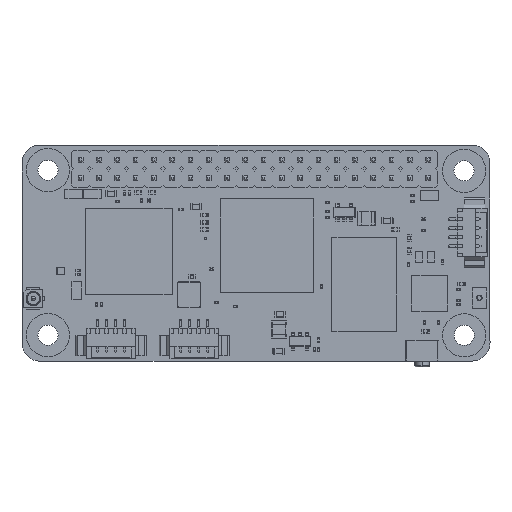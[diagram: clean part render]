
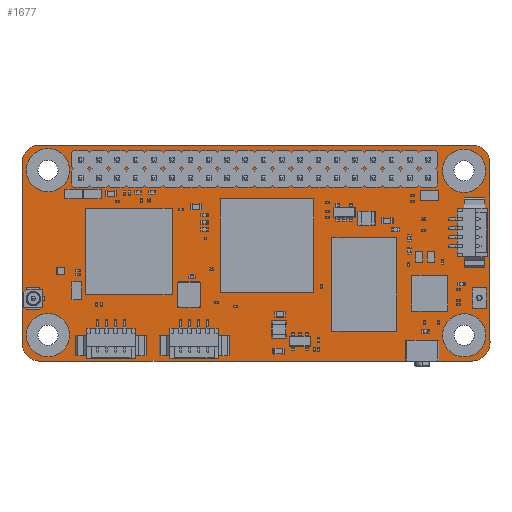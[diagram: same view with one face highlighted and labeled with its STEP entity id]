
A CAD part, top view. The second image highlights one B-rep face of the part: STEP entity #1677.
In plain terms, the highlighted planar face has unit normal (0, 0, 1).
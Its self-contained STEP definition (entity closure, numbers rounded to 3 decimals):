
#1271=DIRECTION('',(-1.,0.,0.));
#1272=VECTOR('',#1271,60.065);
#1273=CARTESIAN_POINT('',(28.5,13.969,1.6));
#1274=LINE('',#1273,#1272);
#1275=CARTESIAN_POINT('',(28.5,11.511,1.6));
#1276=DIRECTION('',(0.,0.,1.));
#1277=DIRECTION('',(1.,0.,0.));
#1278=AXIS2_PLACEMENT_3D('',#1275,#1276,#1277);
#1280=DIRECTION('',(-0.001,1.,0.));
#1281=VECTOR('',#1280,24.854);
#1282=CARTESIAN_POINT('',(30.971,-13.342,1.6));
#1283=LINE('',#1282,#1281);
#1284=DIRECTION('',(0.,1.,0.));
#1285=VECTOR('',#1284,0.153);
#1286=CARTESIAN_POINT('',(30.971,-13.496,1.6));
#1287=LINE('',#1286,#1285);
#1288=CARTESIAN_POINT('',(28.43,-13.496,1.6));
#1289=DIRECTION('',(0.,0.,1.));
#1290=DIRECTION('',(0.,-1.,0.));
#1291=AXIS2_PLACEMENT_3D('',#1288,#1289,#1290);
#1293=DIRECTION('',(1.,0.,0.));
#1294=VECTOR('',#1293,60.009);
#1295=CARTESIAN_POINT('',(-31.579,-16.036,1.6));
#1296=LINE('',#1295,#1294);
#1297=CARTESIAN_POINT('',(-31.579,-13.571,1.6));
#1298=DIRECTION('',(0.,0.,1.));
#1299=DIRECTION('',(-1.,0.,0.));
#1300=AXIS2_PLACEMENT_3D('',#1297,#1298,#1299);
#1302=DIRECTION('',(0.,-1.,0.));
#1303=VECTOR('',#1302,25.06);
#1304=CARTESIAN_POINT('',(-34.044,11.489,1.6));
#1305=LINE('',#1304,#1303);
#1306=CARTESIAN_POINT('',(-31.564,11.489,1.6));
#1307=DIRECTION('',(0.,0.,1.));
#1308=DIRECTION('',(0.,1.,0.));
#1309=AXIS2_PLACEMENT_3D('',#1306,#1307,#1308);
#1311=CARTESIAN_POINT('',(-30.442,-12.428,1.6));
#1312=DIRECTION('',(0.,0.,1.));
#1313=DIRECTION('',(-1.,0.,0.));
#1314=AXIS2_PLACEMENT_3D('',#1311,#1312,#1313);
#1316=CARTESIAN_POINT('',(-30.442,-12.428,1.6));
#1317=DIRECTION('',(0.,0.,1.));
#1318=DIRECTION('',(1.,0.,0.));
#1319=AXIS2_PLACEMENT_3D('',#1316,#1317,#1318);
#1321=CARTESIAN_POINT('',(-30.442,10.482,1.6));
#1322=DIRECTION('',(0.,0.,1.));
#1323=DIRECTION('',(-1.,0.,0.));
#1324=AXIS2_PLACEMENT_3D('',#1321,#1322,#1323);
#1326=CARTESIAN_POINT('',(-30.442,10.482,1.6));
#1327=DIRECTION('',(0.,0.,1.));
#1328=DIRECTION('',(1.,0.,0.));
#1329=AXIS2_PLACEMENT_3D('',#1326,#1327,#1328);
#1331=CARTESIAN_POINT('',(27.369,10.406,1.6));
#1332=DIRECTION('',(0.,0.,1.));
#1333=DIRECTION('',(-1.,0.,0.));
#1334=AXIS2_PLACEMENT_3D('',#1331,#1332,#1333);
#1336=CARTESIAN_POINT('',(27.369,10.406,1.6));
#1337=DIRECTION('',(0.,0.,1.));
#1338=DIRECTION('',(1.,0.,0.));
#1339=AXIS2_PLACEMENT_3D('',#1336,#1337,#1338);
#1341=CARTESIAN_POINT('',(27.394,-12.454,1.6));
#1342=DIRECTION('',(0.,0.,1.));
#1343=DIRECTION('',(-1.,0.,0.));
#1344=AXIS2_PLACEMENT_3D('',#1341,#1342,#1343);
#1346=CARTESIAN_POINT('',(27.394,-12.454,1.6));
#1347=DIRECTION('',(0.,0.,1.));
#1348=DIRECTION('',(1.,0.,0.));
#1349=AXIS2_PLACEMENT_3D('',#1346,#1347,#1348);
#1397=CARTESIAN_POINT('',(28.5,13.969,1.6));
#1398=CARTESIAN_POINT('',(-31.564,13.969,1.6));
#1399=VERTEX_POINT('',#1397);
#1400=VERTEX_POINT('',#1398);
#1401=CARTESIAN_POINT('',(-34.044,11.489,1.6));
#1402=VERTEX_POINT('',#1401);
#1403=CARTESIAN_POINT('',(-34.044,-13.571,1.6));
#1404=VERTEX_POINT('',#1403);
#1405=CARTESIAN_POINT('',(-31.579,-16.036,1.6));
#1406=VERTEX_POINT('',#1405);
#1407=CARTESIAN_POINT('',(28.43,-16.036,1.6));
#1408=VERTEX_POINT('',#1407);
#1409=CARTESIAN_POINT('',(30.971,-13.496,1.6));
#1410=VERTEX_POINT('',#1409);
#1411=CARTESIAN_POINT('',(30.971,-13.342,1.6));
#1412=VERTEX_POINT('',#1411);
#1413=CARTESIAN_POINT('',(30.958,11.511,1.6));
#1414=VERTEX_POINT('',#1413);
#1431=CARTESIAN_POINT('',(-31.842,-12.428,1.6));
#1432=CARTESIAN_POINT('',(-29.042,-12.428,1.6));
#1433=VERTEX_POINT('',#1431);
#1434=VERTEX_POINT('',#1432);
#1435=CARTESIAN_POINT('',(-31.842,10.482,1.6));
#1436=CARTESIAN_POINT('',(-29.042,10.482,1.6));
#1437=VERTEX_POINT('',#1435);
#1438=VERTEX_POINT('',#1436);
#1439=CARTESIAN_POINT('',(25.969,10.406,1.6));
#1440=CARTESIAN_POINT('',(28.769,10.406,1.6));
#1441=VERTEX_POINT('',#1439);
#1442=VERTEX_POINT('',#1440);
#1443=CARTESIAN_POINT('',(25.994,-12.454,1.6));
#1444=CARTESIAN_POINT('',(28.794,-12.454,1.6));
#1445=VERTEX_POINT('',#1443);
#1446=VERTEX_POINT('',#1444);
#1638=CARTESIAN_POINT('',(0.,0.,1.6));
#1639=DIRECTION('',(0.,0.,1.));
#1640=DIRECTION('',(1.,0.,0.));
#1641=AXIS2_PLACEMENT_3D('',#1638,#1639,#1640);
#1642=PLANE('',#1641);
#1643=ORIENTED_EDGE('',*,*,#1520,.F.);
#1644=ORIENTED_EDGE('',*,*,#1535,.F.);
#1645=ORIENTED_EDGE('',*,*,#1549,.F.);
#1646=ORIENTED_EDGE('',*,*,#1563,.F.);
#1647=ORIENTED_EDGE('',*,*,#1577,.F.);
#1648=ORIENTED_EDGE('',*,*,#1591,.F.);
#1649=ORIENTED_EDGE('',*,*,#1605,.F.);
#1650=ORIENTED_EDGE('',*,*,#1619,.F.);
#1651=ORIENTED_EDGE('',*,*,#1632,.F.);
#1652=EDGE_LOOP('',(#1643,#1644,#1645,#1646,#1647,#1648,#1649,#1650,#1651));
#1653=FACE_OUTER_BOUND('',#1652,.F.);
#1655=ORIENTED_EDGE('',*,*,#1654,.T.);
#1657=ORIENTED_EDGE('',*,*,#1656,.T.);
#1658=EDGE_LOOP('',(#1655,#1657));
#1659=FACE_BOUND('',#1658,.F.);
#1661=ORIENTED_EDGE('',*,*,#1660,.T.);
#1663=ORIENTED_EDGE('',*,*,#1662,.T.);
#1664=EDGE_LOOP('',(#1661,#1663));
#1665=FACE_BOUND('',#1664,.F.);
#1667=ORIENTED_EDGE('',*,*,#1666,.T.);
#1669=ORIENTED_EDGE('',*,*,#1668,.T.);
#1670=EDGE_LOOP('',(#1667,#1669));
#1671=FACE_BOUND('',#1670,.F.);
#1673=ORIENTED_EDGE('',*,*,#1672,.T.);
#1674=ORIENTED_EDGE('',*,*,#1456,.T.);
#1675=EDGE_LOOP('',(#1673,#1674));
#1676=FACE_BOUND('',#1675,.F.);
#1677=ADVANCED_FACE('',(#1653,#1659,#1665,#1671,#1676),#1642,.T.);
#1279=CIRCLE('',#1278,2.457);
#1292=CIRCLE('',#1291,2.541);
#1301=CIRCLE('',#1300,2.465);
#1310=CIRCLE('',#1309,2.48);
#1315=CIRCLE('',#1314,1.4);
#1320=CIRCLE('',#1319,1.4);
#1325=CIRCLE('',#1324,1.4);
#1330=CIRCLE('',#1329,1.4);
#1335=CIRCLE('',#1334,1.4);
#1340=CIRCLE('',#1339,1.4);
#1345=CIRCLE('',#1344,1.4);
#1350=CIRCLE('',#1349,1.4);
#1456=EDGE_CURVE('',#1446,#1445,#1350,.T.);
#1520=EDGE_CURVE('',#1399,#1400,#1274,.T.);
#1535=EDGE_CURVE('',#1414,#1399,#1279,.T.);
#1549=EDGE_CURVE('',#1412,#1414,#1283,.T.);
#1563=EDGE_CURVE('',#1410,#1412,#1287,.T.);
#1577=EDGE_CURVE('',#1408,#1410,#1292,.T.);
#1591=EDGE_CURVE('',#1406,#1408,#1296,.T.);
#1605=EDGE_CURVE('',#1404,#1406,#1301,.T.);
#1619=EDGE_CURVE('',#1402,#1404,#1305,.T.);
#1632=EDGE_CURVE('',#1400,#1402,#1310,.T.);
#1654=EDGE_CURVE('',#1433,#1434,#1315,.T.);
#1656=EDGE_CURVE('',#1434,#1433,#1320,.T.);
#1660=EDGE_CURVE('',#1437,#1438,#1325,.T.);
#1662=EDGE_CURVE('',#1438,#1437,#1330,.T.);
#1666=EDGE_CURVE('',#1441,#1442,#1335,.T.);
#1668=EDGE_CURVE('',#1442,#1441,#1340,.T.);
#1672=EDGE_CURVE('',#1445,#1446,#1345,.T.);
